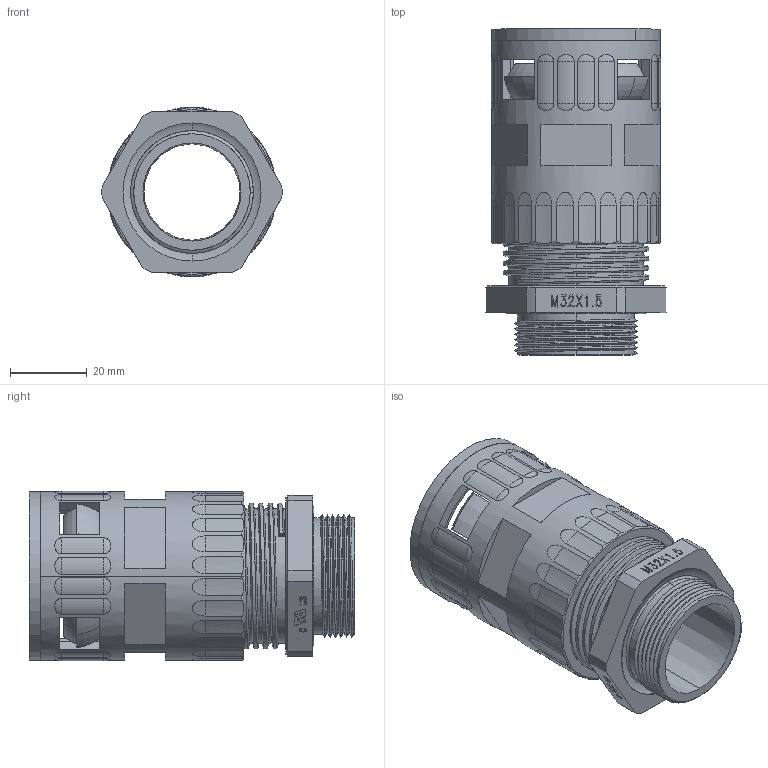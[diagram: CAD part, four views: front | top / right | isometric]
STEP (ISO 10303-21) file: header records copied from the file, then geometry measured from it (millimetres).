
FILE_DESCRIPTION (( 'STEP AP203' ), '1' );
FILE_NAME ('WQGZ-M32-AD34.5.STEP', '2018-09-14T00:50:20', ( '' ), ( '' ), 'SwSTEP 2.0', 'SolidWorks 2016', '' );
FILE_SCHEMA (( 'CONFIG_CONTROL_DESIGN' ));
Length unit declared in the file: millimetre
Products named in the file (8): WQGZ-M32-AD34.5; WQG2-Tr38-AD34.5-01; HSK-M32-01; 蚾饜极; WQG2-Tr38-AD34.5; NSK-AD34.5; CTH-P29; GFD-AD34.5
Assembly tree (7 placements, depth 3):
  WQGZ-M32-AD34.5
    WQG2-Tr38-AD34.5
      WQG2-Tr38-AD34.5-01
      GFD-AD34.5
      NSK-AD34.5
    蚾饜极
      HSK-M32-01
      CTH-P29
Bounding box: 46.99 x 85 x 44.18 mm (x, y, z)
Volume: 50921.9 mm3; surface area: 42225.8 mm2
Topology: 5 solids, 5 shells, 794 faces, 2195 edges, 1400 vertices
Faces by surface type: plane 446, cylinder 123, cone 84, sphere 56, torus 52, bspline 33
Entity records: 30835 total; most frequent: CARTESIAN_POINT 10667, ORIENTED_EDGE 4166, DIRECTION 3848, EDGE_CURVE 2083, VERTEX_POINT 1344, AXIS2_PLACEMENT_3D 1302, VECTOR 1244, LINE 1244
